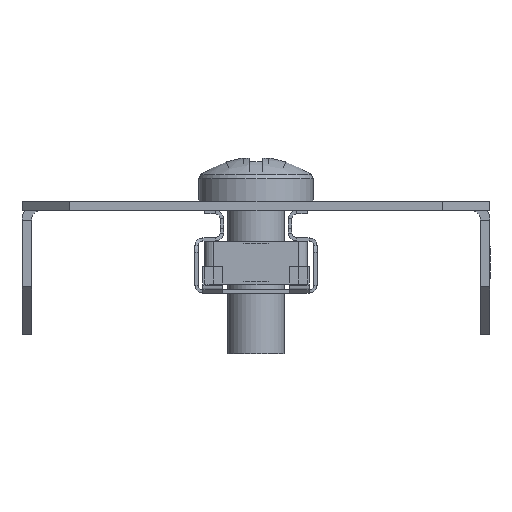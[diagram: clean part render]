
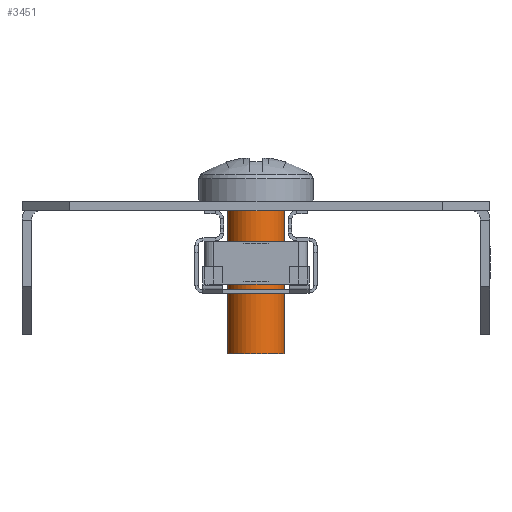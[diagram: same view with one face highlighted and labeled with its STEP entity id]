
A CAD part, left-side view. The second image highlights one B-rep face of the part: STEP entity #3451.
In plain terms, the highlighted cylindrical face has radius 3 mm (diameter 6 mm), a full revolution.
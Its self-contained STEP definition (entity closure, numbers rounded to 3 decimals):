
#299 = CARTESIAN_POINT ( 'NONE',  ( 4.85, 0., 3. ) ) ;
#730 = AXIS2_PLACEMENT_3D ( 'NONE', #4803, #5299, #7019 ) ;
#1436 = ORIENTED_EDGE ( 'NONE', *, *, #5680, .T. ) ;
#1937 = DIRECTION ( 'NONE',  ( -1., 0., 0. ) ) ;
#2117 = ORIENTED_EDGE ( 'NONE', *, *, #6906, .T. ) ;
#2903 = CARTESIAN_POINT ( 'NONE',  ( -25.4, 0., 0. ) ) ;
#2988 = CIRCLE ( 'NONE', #730, 3. ) ;
#3090 = EDGE_LOOP ( 'NONE', ( #1436 ) ) ;
#3451 = ADVANCED_FACE ( 'NONE', ( #6819, #4646 ), #5106, .T. ) ;
#3631 = DIRECTION ( 'NONE',  ( 0., 0., 1. ) ) ;
#4169 = CARTESIAN_POINT ( 'NONE',  ( 20.6, 0., 0. ) ) ;
#4526 = CARTESIAN_POINT ( 'NONE',  ( 20.6, 0., 3. ) ) ;
#4646 = FACE_OUTER_BOUND ( 'NONE', #3090, .T. ) ;
#4672 = AXIS2_PLACEMENT_3D ( 'NONE', #2903, #1937, #5744 ) ;
#4803 = CARTESIAN_POINT ( 'NONE',  ( 4.85, 0., 0. ) ) ;
#5106 = CYLINDRICAL_SURFACE ( 'NONE', #4672, 3. ) ;
#5299 = DIRECTION ( 'NONE',  ( 1., 0., 0. ) ) ;
#5680 = EDGE_CURVE ( 'NONE', #6700, #6700, #5922, .T. ) ;
#5744 = DIRECTION ( 'NONE',  ( 0., 0., 1. ) ) ;
#5789 = VERTEX_POINT ( 'NONE', #299 ) ;
#5922 = CIRCLE ( 'NONE', #6151, 3. ) ;
#6151 = AXIS2_PLACEMENT_3D ( 'NONE', #4169, #6322, #3631 ) ;
#6264 = EDGE_LOOP ( 'NONE', ( #2117 ) ) ;
#6322 = DIRECTION ( 'NONE',  ( -1., 0., 0. ) ) ;
#6700 = VERTEX_POINT ( 'NONE', #4526 ) ;
#6819 = FACE_OUTER_BOUND ( 'NONE', #6264, .T. ) ;
#6906 = EDGE_CURVE ( 'NONE', #5789, #5789, #2988, .T. ) ;
#7019 = DIRECTION ( 'NONE',  ( 0., 0., 1. ) ) ;
